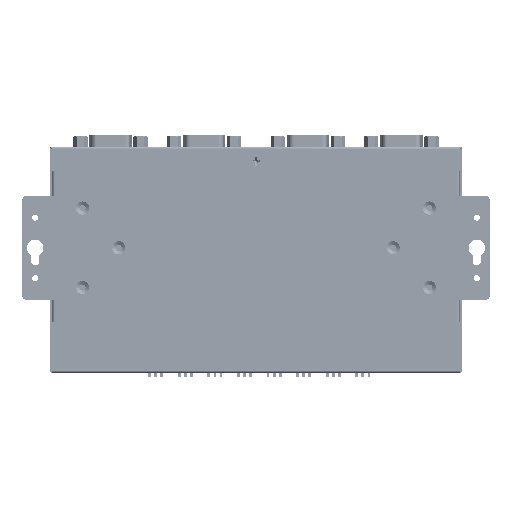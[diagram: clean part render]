
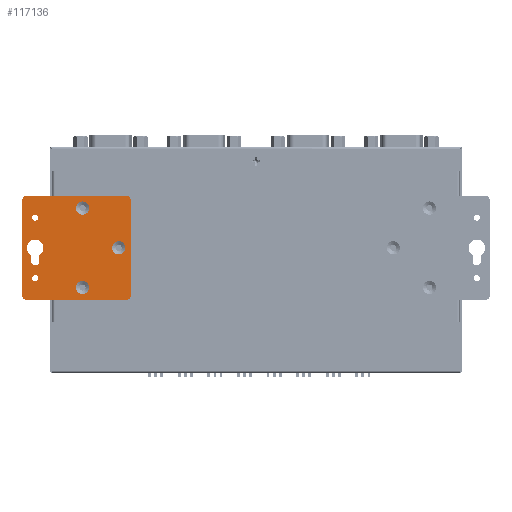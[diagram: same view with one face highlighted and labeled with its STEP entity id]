
A CAD part, front view. The second image highlights one B-rep face of the part: STEP entity #117136.
In plain terms, the highlighted planar face has unit normal (0, -1, 0).
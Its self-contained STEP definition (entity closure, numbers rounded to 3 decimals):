
#2111=FACE_BOUND('',#14902,.T.);
#2112=FACE_BOUND('',#14903,.T.);
#2113=FACE_BOUND('',#14904,.T.);
#2114=FACE_BOUND('',#14905,.T.);
#2115=FACE_BOUND('',#14906,.T.);
#2116=FACE_BOUND('',#14907,.T.);
#2728=PLANE('',#123777);
#8643=FACE_OUTER_BOUND('',#14901,.T.);
#14901=EDGE_LOOP('',(#81376,#81377,#81378,#81379,#81380,#81381,#81382,#81383));
#14902=EDGE_LOOP('',(#81384));
#14903=EDGE_LOOP('',(#81385));
#14904=EDGE_LOOP('',(#81386));
#14905=EDGE_LOOP('',(#81387));
#14906=EDGE_LOOP('',(#81388));
#14907=EDGE_LOOP('',(#81389,#81390,#81391,#81392));
#21750=LINE('',#162611,#35711);
#21755=LINE('',#162625,#35716);
#21758=LINE('',#162635,#35719);
#21763=LINE('',#162649,#35724);
#21767=LINE('',#162661,#35728);
#21771=LINE('',#162673,#35732);
#35711=VECTOR('',#132104,10.);
#35716=VECTOR('',#132117,10.);
#35719=VECTOR('',#132128,10.);
#35724=VECTOR('',#132141,10.);
#35728=VECTOR('',#132153,10.);
#35732=VECTOR('',#132165,10.);
#49664=CIRCLE('',#123731,1.265);
#49667=CIRCLE('',#123736,1.265);
#49668=CIRCLE('',#123738,2.75);
#49671=CIRCLE('',#123743,2.75);
#49674=CIRCLE('',#123748,2.75);
#49677=CIRCLE('',#123754,1.75);
#49679=CIRCLE('',#123758,3.45);
#49681=CIRCLE('',#123762,2.);
#49683=CIRCLE('',#123766,2.);
#49685=CIRCLE('',#123770,2.);
#49687=CIRCLE('',#123774,2.);
#51779=VERTEX_POINT('',#162565);
#51782=VERTEX_POINT('',#162575);
#51783=VERTEX_POINT('',#162579);
#51786=VERTEX_POINT('',#162589);
#51789=VERTEX_POINT('',#162599);
#51792=VERTEX_POINT('',#162609);
#51793=VERTEX_POINT('',#162610);
#51796=VERTEX_POINT('',#162618);
#51798=VERTEX_POINT('',#162624);
#51800=VERTEX_POINT('',#162633);
#51801=VERTEX_POINT('',#162634);
#51804=VERTEX_POINT('',#162642);
#51806=VERTEX_POINT('',#162648);
#51808=VERTEX_POINT('',#162654);
#51810=VERTEX_POINT('',#162660);
#51812=VERTEX_POINT('',#162666);
#51814=VERTEX_POINT('',#162672);
#63393=EDGE_CURVE('',#51779,#51779,#49664,.T.);
#63398=EDGE_CURVE('',#51782,#51782,#49667,.T.);
#63399=EDGE_CURVE('',#51783,#51783,#49668,.T.);
#63404=EDGE_CURVE('',#51786,#51786,#49671,.T.);
#63409=EDGE_CURVE('',#51789,#51789,#49674,.T.);
#63414=EDGE_CURVE('',#51792,#51793,#21750,.T.);
#63418=EDGE_CURVE('',#51796,#51792,#49677,.T.);
#63421=EDGE_CURVE('',#51798,#51796,#21755,.T.);
#63424=EDGE_CURVE('',#51793,#51798,#49679,.T.);
#63426=EDGE_CURVE('',#51800,#51801,#21758,.T.);
#63430=EDGE_CURVE('',#51804,#51800,#49681,.T.);
#63433=EDGE_CURVE('',#51806,#51804,#21763,.T.);
#63436=EDGE_CURVE('',#51808,#51806,#49683,.T.);
#63439=EDGE_CURVE('',#51810,#51808,#21767,.T.);
#63442=EDGE_CURVE('',#51812,#51810,#49685,.T.);
#63445=EDGE_CURVE('',#51814,#51812,#21771,.T.);
#63448=EDGE_CURVE('',#51801,#51814,#49687,.T.);
#81376=ORIENTED_EDGE('',*,*,#63448,.F.);
#81377=ORIENTED_EDGE('',*,*,#63426,.F.);
#81378=ORIENTED_EDGE('',*,*,#63430,.F.);
#81379=ORIENTED_EDGE('',*,*,#63433,.F.);
#81380=ORIENTED_EDGE('',*,*,#63436,.F.);
#81381=ORIENTED_EDGE('',*,*,#63439,.F.);
#81382=ORIENTED_EDGE('',*,*,#63442,.F.);
#81383=ORIENTED_EDGE('',*,*,#63445,.F.);
#81384=ORIENTED_EDGE('',*,*,#63393,.T.);
#81385=ORIENTED_EDGE('',*,*,#63398,.T.);
#81386=ORIENTED_EDGE('',*,*,#63399,.T.);
#81387=ORIENTED_EDGE('',*,*,#63404,.T.);
#81388=ORIENTED_EDGE('',*,*,#63409,.T.);
#81389=ORIENTED_EDGE('',*,*,#63424,.F.);
#81390=ORIENTED_EDGE('',*,*,#63414,.F.);
#81391=ORIENTED_EDGE('',*,*,#63418,.F.);
#81392=ORIENTED_EDGE('',*,*,#63421,.F.);
#117136=ADVANCED_FACE('',(#8643,#2111,#2112,#2113,#2114,#2115,#2116),#2728,
 .F.);
#123731=AXIS2_PLACEMENT_3D('',#162567,#132052,#132053);
#123736=AXIS2_PLACEMENT_3D('',#162577,#132064,#132065);
#123738=AXIS2_PLACEMENT_3D('',#162580,#132068,#132069);
#123743=AXIS2_PLACEMENT_3D('',#162590,#132080,#132081);
#123748=AXIS2_PLACEMENT_3D('',#162600,#132092,#132093);
#123754=AXIS2_PLACEMENT_3D('',#162619,#132110,#132111);
#123758=AXIS2_PLACEMENT_3D('',#162630,#132122,#132123);
#123762=AXIS2_PLACEMENT_3D('',#162643,#132134,#132135);
#123766=AXIS2_PLACEMENT_3D('',#162655,#132146,#132147);
#123770=AXIS2_PLACEMENT_3D('',#162667,#132158,#132159);
#123774=AXIS2_PLACEMENT_3D('',#162678,#132170,#132171);
#123777=AXIS2_PLACEMENT_3D('',#162681,#132176,#132177);
#132052=DIRECTION('center_axis',(0.,1.,0.));
#132053=DIRECTION('ref_axis',(0.,0.,1.));
#132064=DIRECTION('center_axis',(0.,1.,0.));
#132065=DIRECTION('ref_axis',(0.,0.,1.));
#132068=DIRECTION('center_axis',(0.,1.,0.));
#132069=DIRECTION('ref_axis',(0.,0.,-1.));
#132080=DIRECTION('center_axis',(0.,1.,0.));
#132081=DIRECTION('ref_axis',(0.,0.,-1.));
#132092=DIRECTION('center_axis',(0.,1.,0.));
#132093=DIRECTION('ref_axis',(0.,0.,-1.));
#132104=DIRECTION('',(1.,0.,0.));
#132110=DIRECTION('center_axis',(0.,-1.,0.));
#132111=DIRECTION('ref_axis',(0.,0.,-1.));
#132117=DIRECTION('',(-1.,0.,0.));
#132122=DIRECTION('center_axis',(0.,-1.,0.));
#132123=DIRECTION('ref_axis',(-0.862,0.,0.507));
#132128=DIRECTION('',(-1.,0.,0.));
#132134=DIRECTION('center_axis',(0.,1.,0.));
#132135=DIRECTION('ref_axis',(1.,0.,0.));
#132141=DIRECTION('',(0.,0.,-1.));
#132146=DIRECTION('center_axis',(0.,1.,0.));
#132147=DIRECTION('ref_axis',(0.,0.,1.));
#132153=DIRECTION('',(1.,0.,0.));
#132158=DIRECTION('center_axis',(0.,1.,0.));
#132159=DIRECTION('ref_axis',(-1.,0.,0.));
#132165=DIRECTION('',(0.,0.,1.));
#132170=DIRECTION('center_axis',(0.,1.,0.));
#132171=DIRECTION('ref_axis',(0.,0.,-1.));
#132176=DIRECTION('center_axis',(0.,1.,0.));
#132177=DIRECTION('ref_axis',(1.,0.,0.));
#162565=CARTESIAN_POINT('',(32.15,-6.,36.536));
#162567=CARTESIAN_POINT('Origin',(32.15,-6.,37.8));
#162575=CARTESIAN_POINT('',(7.05,-6.,36.536));
#162577=CARTESIAN_POINT('Origin',(7.05,-6.,37.8));
#162579=CARTESIAN_POINT('',(19.6,-6.,5.85));
#162580=CARTESIAN_POINT('Origin',(19.6,-6.,3.1));
#162589=CARTESIAN_POINT('',(36.1,-6.,20.85));
#162590=CARTESIAN_POINT('Origin',(36.1,-6.,18.1));
#162599=CARTESIAN_POINT('',(3.1,-6.,20.85));
#162600=CARTESIAN_POINT('Origin',(3.1,-6.,18.1));
#162609=CARTESIAN_POINT('',(14.1,-6.,36.05));
#162610=CARTESIAN_POINT('',(16.627,-6.,36.05));
#162611=CARTESIAN_POINT('',(16.627,-6.,36.05));
#162618=CARTESIAN_POINT('',(14.1,-6.,39.55));
#162619=CARTESIAN_POINT('Origin',(14.1,-6.,37.8));
#162624=CARTESIAN_POINT('',(16.627,-6.,39.55));
#162625=CARTESIAN_POINT('',(14.1,-6.,39.55));
#162630=CARTESIAN_POINT('Origin',(19.6,-6.,37.8));
#162633=CARTESIAN_POINT('',(39.2,-6.,-2.));
#162634=CARTESIAN_POINT('',(0.,-6.,-2.));
#162635=CARTESIAN_POINT('',(39.2,-6.,-2.));
#162642=CARTESIAN_POINT('',(41.2,-6.,0.));
#162643=CARTESIAN_POINT('Origin',(39.2,-6.,0.));
#162648=CARTESIAN_POINT('',(41.2,-6.,41.25));
#162649=CARTESIAN_POINT('',(41.2,-6.,41.25));
#162654=CARTESIAN_POINT('',(39.2,-6.,43.25));
#162655=CARTESIAN_POINT('Origin',(39.2,-6.,41.25));
#162660=CARTESIAN_POINT('',(0.,-6.,43.25));
#162661=CARTESIAN_POINT('',(0.,-6.,43.25));
#162666=CARTESIAN_POINT('',(-2.,-6.,41.25));
#162667=CARTESIAN_POINT('Origin',(0.,-6.,41.25));
#162672=CARTESIAN_POINT('',(-2.,-6.,0.));
#162673=CARTESIAN_POINT('',(-2.,-6.,0.));
#162678=CARTESIAN_POINT('Origin',(0.,-6.,0.));
#162681=CARTESIAN_POINT('Origin',(19.6,-6.,20.625));
